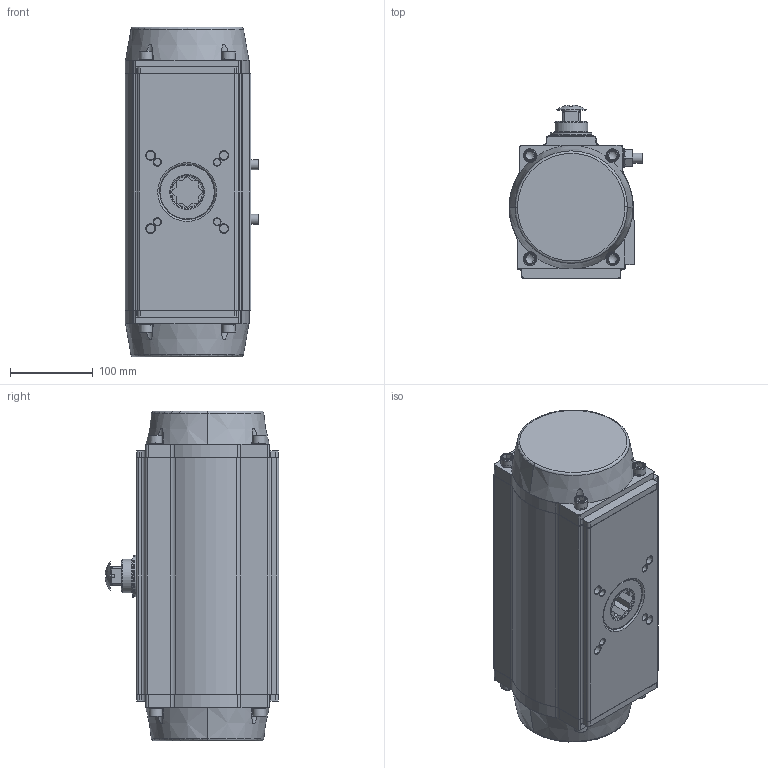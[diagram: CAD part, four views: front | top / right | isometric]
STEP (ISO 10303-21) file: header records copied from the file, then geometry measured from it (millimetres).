
FILE_DESCRIPTION(('STEP AP203'), '1');
FILE_NAME('3D_930-DA_SR-0526-27õ27', '', ('UNSPECIFIED'), ('UNSPECIFIED'), 'C3D Converter', 'C3D Toolkit', '');
FILE_SCHEMA(('CONFIG_CONTROL_DESIGN'));
Length unit declared in the file: millimetre
Bounding box: 161.53 x 209.47 x 398 mm (x, y, z)
Volume: 3221153.4 mm3; surface area: 670371.2 mm2
Topology: 39 solids, 39 shells, 1184 faces, 3022 edges, 1995 vertices
Faces by surface type: cylinder 458, plane 452, bspline 112, cone 107, torus 36, sphere 19
Full cylindrical faces by diameter (mm): 2 x2, 4.2 x8, 5 x1, 6 x1, 6.5 x1, 8.5 x14, 9 x2, 10 x8, 10.5 x4, 11 x8, 11.4 x1, 12 x6, 16 x10, 18 x1, 22 x2, 25 x2, 34.2 x1, 36 x2, 37 x1, 38 x12, 40 x9, 50 x2, 52 x1, 61.3 x1, 63 x2, 67 x4, 139 x2, 140 x1, 146 x2
Entity records: 84536 total; most frequent: CARTESIAN_POINT 47200, ORIENTED_EDGE 5648, DIRECTION 5497, EDGE_CURVE 2824, AXIS2_PLACEMENT_3D 2224, VERTEX_POINT 1989, EDGE_LOOP 1513, COLOUR_RGB 1223
